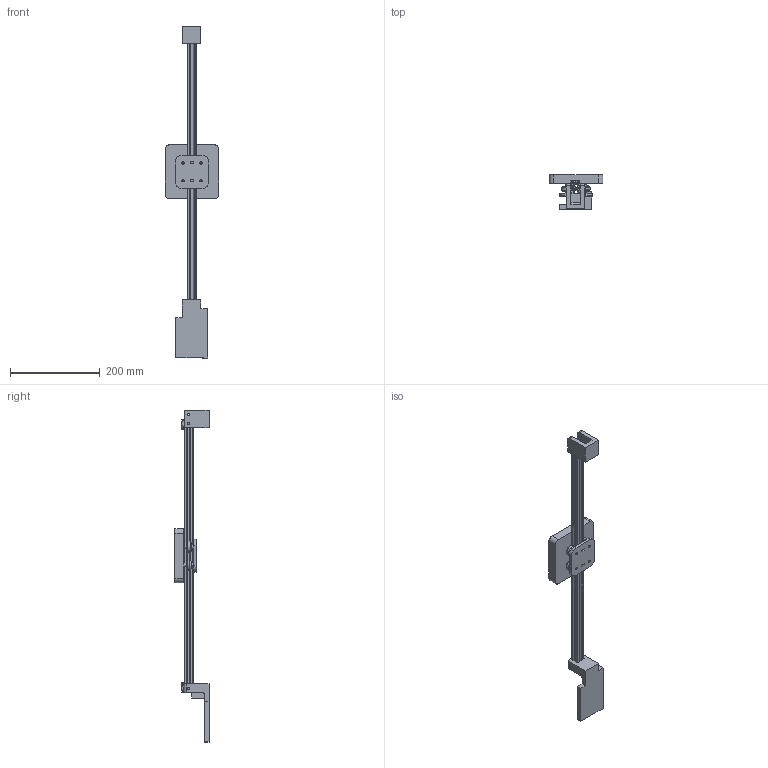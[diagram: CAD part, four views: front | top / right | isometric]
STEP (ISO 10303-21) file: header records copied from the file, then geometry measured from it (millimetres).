
FILE_DESCRIPTION (( 'STEP AP214' ), '1' );
FILE_NAME ('AqueliotrophAssembly.STEP', '2026-07-17T10:13:48', ( '' ), ( '' ), 'SwSTEP 2.0', 'SolidWorks 2024', '' );
FILE_SCHEMA (( 'AUTOMOTIVE_DESIGN' ));
Length unit declared in the file: millimetre
Products named in the file (17): AqueliotrophAssembly; Switch_Button.STEP; 600mmAlExt; Link.STEP; PlantTopTry3; VWheelSpacer; Wheel shaft.STEP; StandMirrortry2; Limit Switch.STEP; VWheel; Body.STEP; Standtry2; PlantBottomTry2; AlExtrusionFixingNut; Wheel.STEP; PlantCarriageAssembly2; Limit Switch
Assembly tree (30 placements, depth 4):
  AqueliotrophAssembly
    PlantCarriageAssembly2
      PlantBottomTry2
      PlantTopTry3
      VWheelSpacer  x8
      VWheel  x4
      600mmAlExt
    StandMirrortry2
    Standtry2
    AlExtrusionFixingNut  x4
    Limit Switch  x2
      Limit Switch.STEP
        Body.STEP
        Switch_Button.STEP
        Link.STEP
        Wheel shaft.STEP
        Wheel.STEP
Bounding box: 120 x 76.43 x 740 mm (x, y, z)
Volume: 461254.6 mm3; surface area: 212566.8 mm2
Topology: 35 solids, 35 shells, 1509 faces, 3910 edges, 2573 vertices
Faces by surface type: plane 801, cylinder 406, bspline 214, cone 80, torus 8
Entity records: 31044 total; most frequent: CARTESIAN_POINT 12935, ORIENTED_EDGE 3838, DIRECTION 3249, EDGE_CURVE 1919, VECTOR 1341, LINE 1341, VERTEX_POINT 1270, AXIS2_PLACEMENT_3D 954
